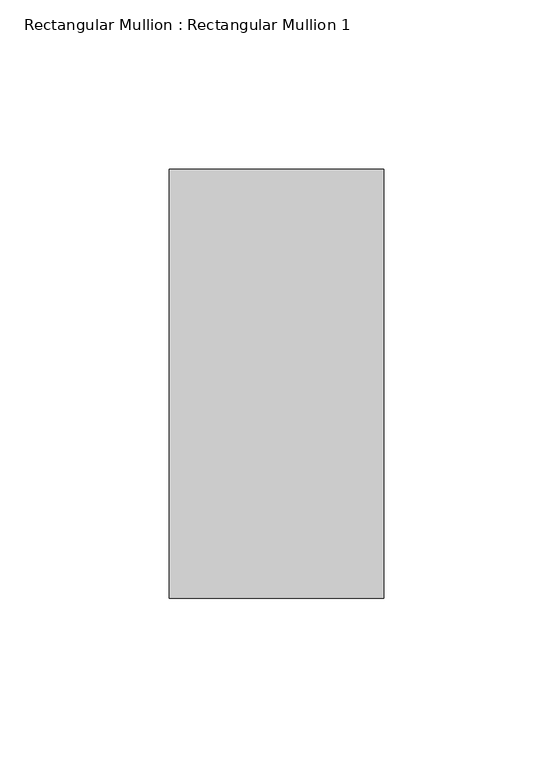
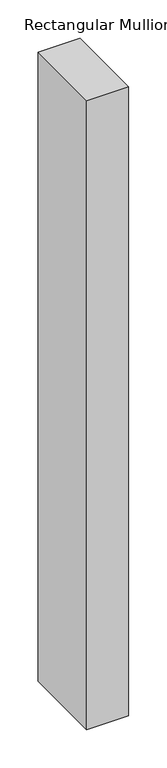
"""IFC4 building model written with IfcOpenShell, lengths in millimetres: member geometry, Rectangular Mullion : Rectangular Mullion 1."""

from ifc_helpers import new_model, si_unit, frame, origin, place, context, project, spatial, polyline, outline, extrude, source, transform, mapped, element, save


def rectangular_mullion_rectangular_mullion_1_b7543a3e(model_context):
    return source(origin(), model_context, "Body", "SweptSolid", [
        extrude(outline(polyline([(31.75, 63.5), (31.75, -63.5), (-31.75, -63.5), (-31.75, 63.5), (31.75, 63.5)])), frame((0.0, 0.0, -1003.2999999), z_axis=(0.0, 0.0, 1.0), x_axis=(1.0, 0.0, 0.0)), (0.0, 0.0, 1.0), 1003.2999999),
    ])


if __name__ == "__main__":
    model = new_model("IFC4")
    model_context = context("Model", 3, world=origin())
    ifc_project = project(units=[si_unit("LENGTHUNIT", "METRE", prefix="MILLI")], contexts=[model_context])
    site = spatial("IfcSite", under=ifc_project)
    building = spatial("IfcBuilding", under=site)
    placement = place(None, origin())
    rectangular_mullion_rectangular_mullion_1_shape = rectangular_mullion_rectangular_mullion_1_b7543a3e(model_context)
    element("IfcMember", 1, ObjectType="Rectangular Mullion : Rectangular Mullion 1", at=placement, inside=building, context=model_context, shape_type="MappedRepresentation", body=[
        mapped(rectangular_mullion_rectangular_mullion_1_shape, transform((0.0, 0.0, 0.0), x_axis=(1.0, 0.0, 0.0), y_axis=(0.0, 1.0, 0.0), z_axis=(0.0, 0.0, 1.0))),
    ])
    save(model, "model.ifc")
